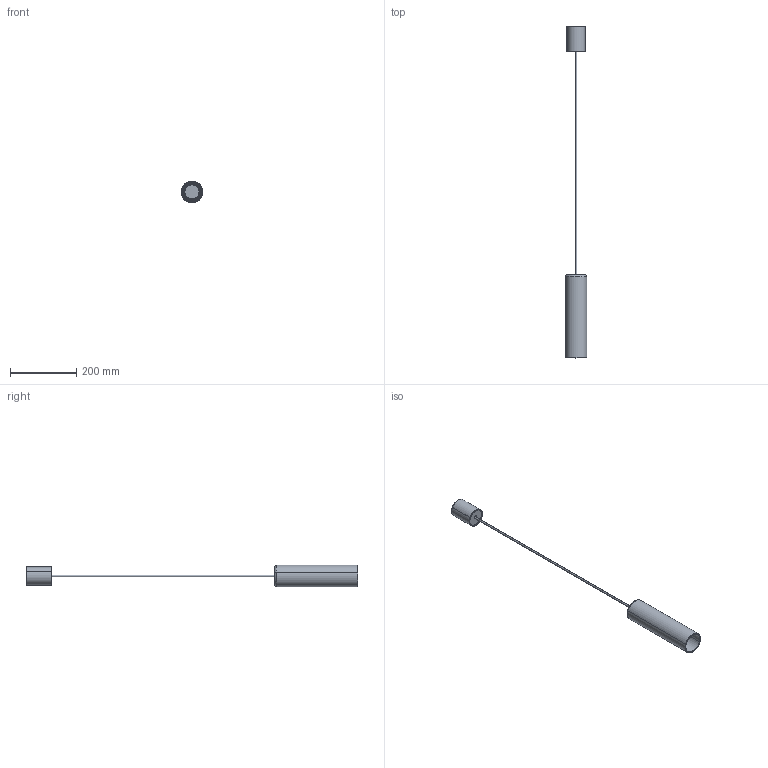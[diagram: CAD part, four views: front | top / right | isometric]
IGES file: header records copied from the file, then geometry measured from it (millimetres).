
Start section: SolidWorks IGES file using analytic representation for surfaces
Global section: file name: Z:\Modele 3D_WWW\_KOLEKCJE_WWW\CYLINDER\CYLINDER-M-7865-7868\CYLINDER-M-7865-7868.IGS; native system: SolidWorks 2021; preprocessor: SolidWorks 2021; author: gabriela.tworek; date: 210719.110903; units: millimetre
Bounding box: 65 x 999 x 64.99 mm (x, y, z)
Surface area: 191902.7 mm2 (no closed solid volume)
Topology: 0 solids, 0 shells, 90 faces, 2293 edges, 2293 vertices
Faces by surface type: bspline 56, revolution 34
